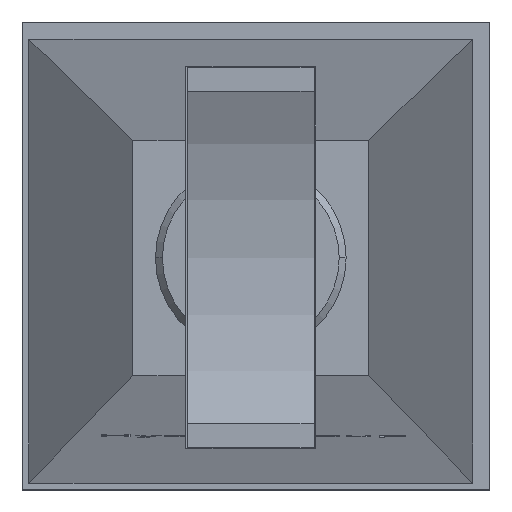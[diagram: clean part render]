
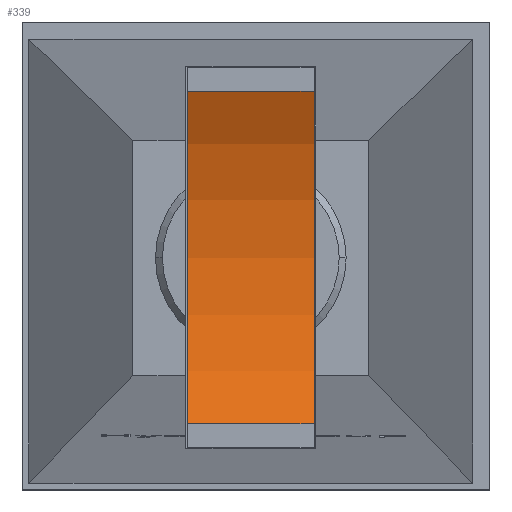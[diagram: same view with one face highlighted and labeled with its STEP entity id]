
A CAD part, top view. The second image highlights one B-rep face of the part: STEP entity #339.
In plain terms, the highlighted cylindrical face has radius 203.2 mm (diameter 406.4 mm), a partial arc.
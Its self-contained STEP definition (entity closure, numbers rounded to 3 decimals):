
#339=ADVANCED_FACE('',(#848),#849,.F.);
#848=FACE_OUTER_BOUND('',#1577,.T.);
#849=CYLINDRICAL_SURFACE('',#1578,203.2);
#1577=EDGE_LOOP('',(#2401,#2402,#2403,#2404));
#1578=AXIS2_PLACEMENT_3D('',#2405,#2406,#2407);
#2401=ORIENTED_EDGE('',*,*,#4512,.T.);
#2402=ORIENTED_EDGE('',*,*,#4513,.F.);
#2403=ORIENTED_EDGE('',*,*,#4514,.T.);
#2404=ORIENTED_EDGE('',*,*,#4509,.T.);
#2405=CARTESIAN_POINT('',(431.452,482.328,701.6));
#2406=DIRECTION('',(-1.0,0.,0.));
#2407=DIRECTION('',(0.,-1.0,0.));
#4509=EDGE_CURVE('',#5314,#5312,#5315,.T.);
#4512=EDGE_CURVE('',#5312,#5318,#5319,.T.);
#4513=EDGE_CURVE('',#5320,#5318,#5321,.T.);
#4514=EDGE_CURVE('',#5320,#5314,#5322,.T.);
#5312=VERTEX_POINT('',#6573);
#5314=VERTEX_POINT('',#6576);
#5315=LINE('',#6577,#6578);
#5318=VERTEX_POINT('',#6582);
#5319=CIRCLE('',#6583,203.2);
#5320=VERTEX_POINT('',#6584);
#5321=LINE('',#6585,#6586);
#5322=CIRCLE('',#6587,203.2);
#6573=CARTESIAN_POINT('',(358.452,578.128,522.4));
#6576=CARTESIAN_POINT('',(431.452,578.128,522.4));
#6577=CARTESIAN_POINT('',(431.452,578.128,522.4));
#6578=VECTOR('',#8451,1.0);
#6582=CARTESIAN_POINT('',(358.452,386.528,522.4));
#6583=AXIS2_PLACEMENT_3D('',#8453,#8454,#8455);
#6584=CARTESIAN_POINT('',(431.452,386.528,522.4));
#6585=CARTESIAN_POINT('',(431.452,386.528,522.4));
#6586=VECTOR('',#8456,1.0);
#6587=AXIS2_PLACEMENT_3D('',#8457,#8458,#8459);
#8451=DIRECTION('',(-1.0,0.,0.));
#8453=CARTESIAN_POINT('',(358.452,482.328,701.6));
#8454=DIRECTION('',(-1.0,0.,0.));
#8455=DIRECTION('',(0.,-1.0,0.));
#8456=DIRECTION('',(-1.0,0.,0.));
#8457=CARTESIAN_POINT('',(431.452,482.328,701.6));
#8458=DIRECTION('',(1.0,0.,0.));
#8459=DIRECTION('',(0.,-1.0,0.));
